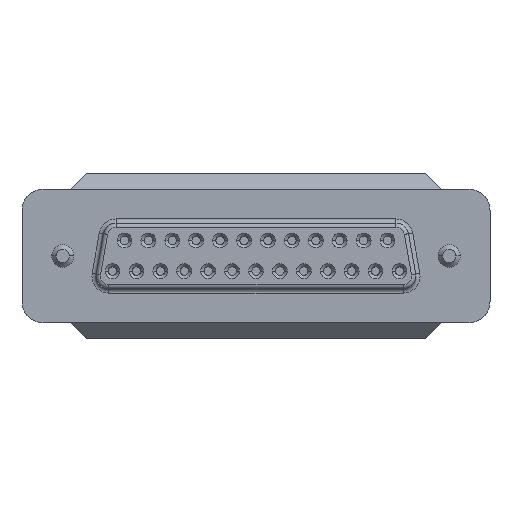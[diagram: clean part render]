
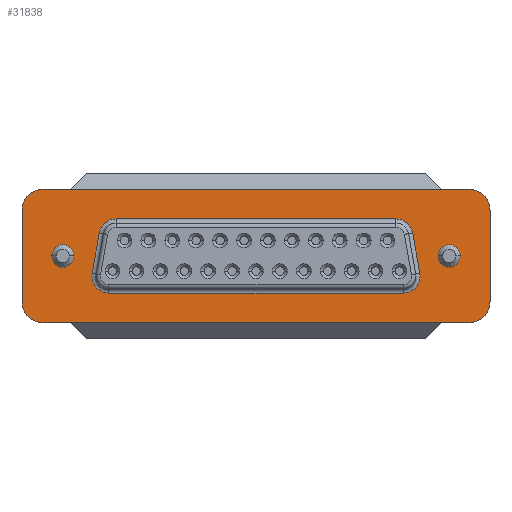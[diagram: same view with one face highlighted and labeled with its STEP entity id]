
A CAD part, left-side view. The second image highlights one B-rep face of the part: STEP entity #31838.
In plain terms, the highlighted planar face has unit normal (-1, 0, 0).
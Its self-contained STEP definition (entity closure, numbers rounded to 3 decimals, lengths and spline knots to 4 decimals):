
#1=DIRECTION('',(0.,1.,0.));
#2=VECTOR('',#1,1.754);
#3=CARTESIAN_POINT('',(0.,-1.982,-0.63));
#4=LINE('',#3,#2);
#5=DIRECTION('',(0.,1.,0.));
#6=VECTOR('',#5,0.128);
#7=CARTESIAN_POINT('',(0.,-0.228,-0.63));
#8=LINE('',#7,#6);
#9=CARTESIAN_POINT('',(0.,-0.1,-0.53));
#10=DIRECTION('',(-1.,0.,0.));
#11=DIRECTION('',(0.,1.,0.));
#12=AXIS2_PLACEMENT_3D('',#9,#10,#11);
#14=DIRECTION('',(0.,0.,1.));
#15=VECTOR('',#14,0.43);
#16=CARTESIAN_POINT('',(0.,0.,-0.53));
#17=LINE('',#16,#15);
#18=CARTESIAN_POINT('',(0.,-0.1,-0.1));
#19=DIRECTION('',(-1.,0.,0.));
#20=DIRECTION('',(0.,0.,1.));
#21=AXIS2_PLACEMENT_3D('',#18,#19,#20);
#23=DIRECTION('',(0.,-1.,0.));
#24=VECTOR('',#23,0.128);
#25=CARTESIAN_POINT('',(0.,-0.1,0.));
#26=LINE('',#25,#24);
#27=DIRECTION('',(0.,-1.,0.));
#28=VECTOR('',#27,1.754);
#29=CARTESIAN_POINT('',(0.,-0.228,0.));
#30=LINE('',#29,#28);
#31=DIRECTION('',(0.,-1.,0.));
#32=VECTOR('',#31,0.128);
#33=CARTESIAN_POINT('',(0.,-1.982,0.));
#34=LINE('',#33,#32);
#35=CARTESIAN_POINT('',(0.,-2.11,-0.1));
#36=DIRECTION('',(-1.,0.,0.));
#37=DIRECTION('',(0.,-1.,0.));
#38=AXIS2_PLACEMENT_3D('',#35,#36,#37);
#40=DIRECTION('',(0.,0.,-1.));
#41=VECTOR('',#40,0.43);
#42=CARTESIAN_POINT('',(0.,-2.21,-0.1));
#43=LINE('',#42,#41);
#44=CARTESIAN_POINT('',(0.,-2.11,-0.53));
#45=DIRECTION('',(-1.,0.,0.));
#46=DIRECTION('',(0.,0.,-1.));
#47=AXIS2_PLACEMENT_3D('',#44,#45,#46);
#49=DIRECTION('',(0.,1.,0.));
#50=VECTOR('',#49,0.128);
#51=CARTESIAN_POINT('',(0.,-2.11,-0.63));
#52=LINE('',#51,#50);
#53=CARTESIAN_POINT('',(0.,-1.8,-0.41));
#54=DIRECTION('',(-1.,0.,0.));
#55=DIRECTION('',(0.,0.,-1.));
#56=AXIS2_PLACEMENT_3D('',#53,#54,#55);
#58=DIRECTION('',(0.,0.176,0.984));
#59=VECTOR('',#58,0.193);
#60=CARTESIAN_POINT('',(0.,-1.8787,-0.3959));
#61=LINE('',#60,#59);
#62=CARTESIAN_POINT('',(0.,-1.7659,-0.22));
#63=DIRECTION('',(-1.,0.,0.));
#64=DIRECTION('',(0.,-0.984,0.176));
#65=AXIS2_PLACEMENT_3D('',#62,#63,#64);
#67=DIRECTION('',(0.,1.,0.));
#68=VECTOR('',#67,1.3219);
#69=CARTESIAN_POINT('',(0.,-1.7659,-0.14));
#70=LINE('',#69,#68);
#71=CARTESIAN_POINT('',(0.,-0.4441,-0.22));
#72=DIRECTION('',(-1.,0.,0.));
#73=DIRECTION('',(0.,0.,1.));
#74=AXIS2_PLACEMENT_3D('',#71,#72,#73);
#76=DIRECTION('',(0.,0.176,-0.984));
#77=VECTOR('',#76,0.193);
#78=CARTESIAN_POINT('',(0.,-0.3653,-0.2059));
#79=LINE('',#78,#77);
#80=CARTESIAN_POINT('',(0.,-0.41,-0.41));
#81=DIRECTION('',(-1.,0.,0.));
#82=DIRECTION('',(0.,0.984,0.176));
#83=AXIS2_PLACEMENT_3D('',#80,#81,#82);
#85=DIRECTION('',(0.,-1.,0.));
#86=VECTOR('',#85,1.39);
#87=CARTESIAN_POINT('',(0.,-0.41,-0.49));
#88=LINE('',#87,#86);
#89=CARTESIAN_POINT('',(0.,-0.1925,-0.315));
#90=DIRECTION('',(-1.,0.,0.));
#91=DIRECTION('',(0.,1.,0.));
#92=AXIS2_PLACEMENT_3D('',#89,#90,#91);
#94=CARTESIAN_POINT('',(0.,-0.1925,-0.315));
#95=DIRECTION('',(-1.,0.,0.));
#96=DIRECTION('',(0.,-1.,0.));
#97=AXIS2_PLACEMENT_3D('',#94,#95,#96);
#99=CARTESIAN_POINT('',(0.,-2.0175,-0.315));
#100=DIRECTION('',(-1.,0.,0.));
#101=DIRECTION('',(0.,1.,0.));
#102=AXIS2_PLACEMENT_3D('',#99,#100,#101);
#104=CARTESIAN_POINT('',(0.,-2.0175,-0.315));
#105=DIRECTION('',(-1.,0.,0.));
#106=DIRECTION('',(0.,-1.,0.));
#107=AXIS2_PLACEMENT_3D('',#104,#105,#106);
#24027=CARTESIAN_POINT('',(0.,-1.8,-0.49));
#24028=CARTESIAN_POINT('',(0.,-1.8787,-0.3959));
#24029=VERTEX_POINT('',#24027);
#24030=VERTEX_POINT('',#24028);
#24035=CARTESIAN_POINT('',(0.,-1.8447,-0.2059));
#24036=VERTEX_POINT('',#24035);
#24039=CARTESIAN_POINT('',(0.,-1.7659,-0.14));
#24040=VERTEX_POINT('',#24039);
#24043=CARTESIAN_POINT('',(0.,-0.4441,-0.14));
#24044=VERTEX_POINT('',#24043);
#24047=CARTESIAN_POINT('',(0.,-0.3653,-0.2059));
#24048=VERTEX_POINT('',#24047);
#24051=CARTESIAN_POINT('',(0.,-0.3313,-0.3959));
#24052=VERTEX_POINT('',#24051);
#24055=CARTESIAN_POINT('',(0.,-0.41,-0.49));
#24056=VERTEX_POINT('',#24055);
#24391=CARTESIAN_POINT('',(0.,-0.1395,-0.315));
#24392=CARTESIAN_POINT('',(0.,-0.2455,-0.315));
#24393=VERTEX_POINT('',#24391);
#24394=VERTEX_POINT('',#24392);
#24395=CARTESIAN_POINT('',(0.,-1.9645,-0.315));
#24396=CARTESIAN_POINT('',(0.,-2.0705,-0.315));
#24397=VERTEX_POINT('',#24395);
#24398=VERTEX_POINT('',#24396);
#24415=CARTESIAN_POINT('',(0.,0.,-0.53));
#24416=CARTESIAN_POINT('',(0.,-0.1,-0.63));
#24417=VERTEX_POINT('',#24415);
#24418=VERTEX_POINT('',#24416);
#24423=CARTESIAN_POINT('',(0.,-2.11,-0.63));
#24424=CARTESIAN_POINT('',(0.,-2.21,-0.53));
#24425=VERTEX_POINT('',#24423);
#24426=VERTEX_POINT('',#24424);
#24431=CARTESIAN_POINT('',(0.,-2.21,-0.1));
#24432=CARTESIAN_POINT('',(0.,-2.11,0.));
#24433=VERTEX_POINT('',#24431);
#24434=VERTEX_POINT('',#24432);
#24439=CARTESIAN_POINT('',(0.,-0.1,0.));
#24440=CARTESIAN_POINT('',(0.,0.,-0.1));
#24441=VERTEX_POINT('',#24439);
#24442=VERTEX_POINT('',#24440);
#24453=CARTESIAN_POINT('',(0.,-1.982,-0.63));
#24454=CARTESIAN_POINT('',(0.,-0.228,-0.63));
#24455=VERTEX_POINT('',#24453);
#24456=VERTEX_POINT('',#24454);
#24469=CARTESIAN_POINT('',(0.,-0.228,0.));
#24470=CARTESIAN_POINT('',(0.,-1.982,0.));
#24471=VERTEX_POINT('',#24469);
#24472=VERTEX_POINT('',#24470);
#31777=CARTESIAN_POINT('',(0.,0.,0.));
#31778=DIRECTION('',(1.,0.,0.));
#31779=DIRECTION('',(0.,-1.,0.));
#31780=AXIS2_PLACEMENT_3D('',#31777,#31778,#31779);
#31781=PLANE('',#31780);
#31783=ORIENTED_EDGE('',*,*,#31782,.T.);
#31785=ORIENTED_EDGE('',*,*,#31784,.T.);
#31787=ORIENTED_EDGE('',*,*,#31786,.F.);
#31789=ORIENTED_EDGE('',*,*,#31788,.T.);
#31791=ORIENTED_EDGE('',*,*,#31790,.F.);
#31793=ORIENTED_EDGE('',*,*,#31792,.T.);
#31795=ORIENTED_EDGE('',*,*,#31794,.T.);
#31797=ORIENTED_EDGE('',*,*,#31796,.T.);
#31799=ORIENTED_EDGE('',*,*,#31798,.F.);
#31801=ORIENTED_EDGE('',*,*,#31800,.T.);
#31803=ORIENTED_EDGE('',*,*,#31802,.F.);
#31805=ORIENTED_EDGE('',*,*,#31804,.T.);
#31806=EDGE_LOOP('',(#31783,#31785,#31787,#31789,#31791,#31793,#31795,#31797,
#31799,#31801,#31803,#31805));
#31807=FACE_OUTER_BOUND('',#31806,.F.);
#31809=ORIENTED_EDGE('',*,*,#31808,.T.);
#31811=ORIENTED_EDGE('',*,*,#31810,.T.);
#31813=ORIENTED_EDGE('',*,*,#31812,.T.);
#31815=ORIENTED_EDGE('',*,*,#31814,.T.);
#31817=ORIENTED_EDGE('',*,*,#31816,.T.);
#31819=ORIENTED_EDGE('',*,*,#31818,.T.);
#31821=ORIENTED_EDGE('',*,*,#31820,.T.);
#31823=ORIENTED_EDGE('',*,*,#31822,.T.);
#31824=EDGE_LOOP('',(#31809,#31811,#31813,#31815,#31817,#31819,#31821,#31823));
#31825=FACE_BOUND('',#31824,.F.);
#31827=ORIENTED_EDGE('',*,*,#31826,.T.);
#31829=ORIENTED_EDGE('',*,*,#31828,.T.);
#31830=EDGE_LOOP('',(#31827,#31829));
#31831=FACE_BOUND('',#31830,.F.);
#31833=ORIENTED_EDGE('',*,*,#31832,.T.);
#31835=ORIENTED_EDGE('',*,*,#31834,.T.);
#31836=EDGE_LOOP('',(#31833,#31835));
#31837=FACE_BOUND('',#31836,.F.);
#31838=ADVANCED_FACE('',(#31807,#31825,#31831,#31837),#31781,.F.);
#13=CIRCLE('',#12,0.1);
#22=CIRCLE('',#21,0.1);
#39=CIRCLE('',#38,0.1);
#48=CIRCLE('',#47,0.1);
#57=CIRCLE('',#56,0.08);
#66=CIRCLE('',#65,0.08);
#75=CIRCLE('',#74,0.08);
#84=CIRCLE('',#83,0.08);
#93=CIRCLE('',#92,0.053);
#98=CIRCLE('',#97,0.053);
#103=CIRCLE('',#102,0.053);
#108=CIRCLE('',#107,0.053);
#31782=EDGE_CURVE('',#24455,#24456,#4,.T.);
#31784=EDGE_CURVE('',#24456,#24418,#8,.T.);
#31786=EDGE_CURVE('',#24417,#24418,#13,.T.);
#31788=EDGE_CURVE('',#24417,#24442,#17,.T.);
#31790=EDGE_CURVE('',#24441,#24442,#22,.T.);
#31792=EDGE_CURVE('',#24441,#24471,#26,.T.);
#31794=EDGE_CURVE('',#24471,#24472,#30,.T.);
#31796=EDGE_CURVE('',#24472,#24434,#34,.T.);
#31798=EDGE_CURVE('',#24433,#24434,#39,.T.);
#31800=EDGE_CURVE('',#24433,#24426,#43,.T.);
#31802=EDGE_CURVE('',#24425,#24426,#48,.T.);
#31804=EDGE_CURVE('',#24425,#24455,#52,.T.);
#31808=EDGE_CURVE('',#24029,#24030,#57,.T.);
#31810=EDGE_CURVE('',#24030,#24036,#61,.T.);
#31812=EDGE_CURVE('',#24036,#24040,#66,.T.);
#31814=EDGE_CURVE('',#24040,#24044,#70,.T.);
#31816=EDGE_CURVE('',#24044,#24048,#75,.T.);
#31818=EDGE_CURVE('',#24048,#24052,#79,.T.);
#31820=EDGE_CURVE('',#24052,#24056,#84,.T.);
#31822=EDGE_CURVE('',#24056,#24029,#88,.T.);
#31826=EDGE_CURVE('',#24393,#24394,#93,.T.);
#31828=EDGE_CURVE('',#24394,#24393,#98,.T.);
#31832=EDGE_CURVE('',#24397,#24398,#103,.T.);
#31834=EDGE_CURVE('',#24398,#24397,#108,.T.);
